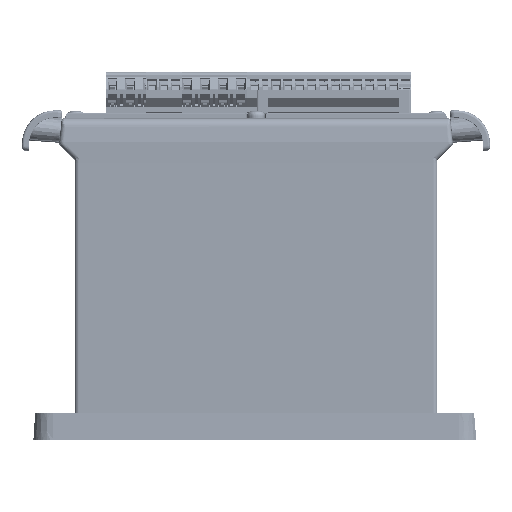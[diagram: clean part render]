
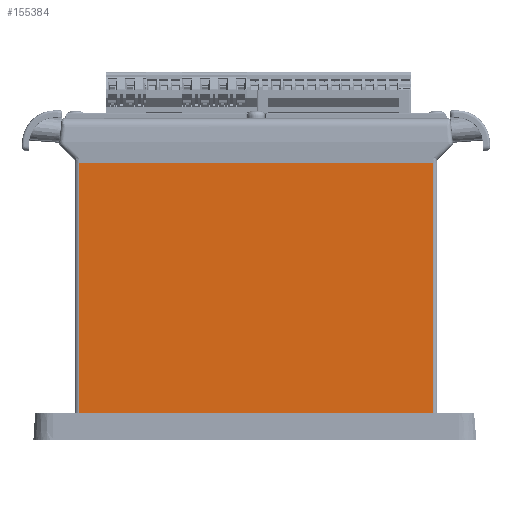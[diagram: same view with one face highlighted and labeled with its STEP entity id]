
A CAD part, left-side view. The second image highlights one B-rep face of the part: STEP entity #155384.
In plain terms, the highlighted planar face has unit normal (-1, 0, 0).
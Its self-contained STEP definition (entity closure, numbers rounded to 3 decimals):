
#12970=FACE_OUTER_BOUND($,#21966,.T.);
#21966=EDGE_LOOP($,(#107841,#107842,#107843,#107844));
#32912=LINE($,#228618,#48905);
#32993=LINE($,#229140,#48986);
#32994=LINE($,#229143,#48987);
#32995=LINE($,#229144,#48988);
#48905=VECTOR($,#183603,150.948);
#48986=VECTOR($,#183856,106.75);
#48987=VECTOR($,#183859,150.948);
#48988=VECTOR($,#183860,106.75);
#64766=VERTEX_POINT($,#228402);
#64791=VERTEX_POINT($,#228617);
#64862=VERTEX_POINT($,#229138);
#64863=VERTEX_POINT($,#229142);
#81307=EDGE_CURVE($,#64766,#64791,#32912,.T.);
#81433=EDGE_CURVE($,#64862,#64791,#32993,.T.);
#81434=EDGE_CURVE($,#64862,#64863,#32994,.T.);
#81435=EDGE_CURVE($,#64863,#64766,#32995,.T.);
#107841=ORIENTED_EDGE($,*,*,#81434,.F.);
#107842=ORIENTED_EDGE($,*,*,#81433,.T.);
#107843=ORIENTED_EDGE($,*,*,#81307,.F.);
#107844=ORIENTED_EDGE($,*,*,#81435,.F.);
#148843=PLANE($,#165229);
#155384=ADVANCED_FACE($,(#12970),#148843,.T.);
#165229=AXIS2_PLACEMENT_3D($,#229141,#183857,#183858);
#183603=DIRECTION($,(0.,-1.,0.));
#183856=DIRECTION($,(0.,0.,1.));
#183857=DIRECTION('center_axis',(-1.,0.,0.));
#183858=DIRECTION('ref_axis',(0.,-1.,0.));
#183859=DIRECTION($,(0.,1.,0.));
#183860=DIRECTION($,(0.,0.,1.));
#228402=CARTESIAN_POINT('',(-114.45,75.474,118.25));
#228617=CARTESIAN_POINT('',(-114.45,-75.474,118.25));
#228618=CARTESIAN_POINT($,(-114.45,-75.474,118.25));
#229138=CARTESIAN_POINT('',(-114.45,-75.474,11.5));
#229140=CARTESIAN_POINT($,(-114.45,-75.474,11.5));
#229141=CARTESIAN_POINT('Origin',(-114.45,75.474,11.5));
#229142=CARTESIAN_POINT('',(-114.45,75.474,11.5));
#229143=CARTESIAN_POINT($,(-114.45,86.5,11.5));
#229144=CARTESIAN_POINT($,(-114.45,75.474,11.5));
